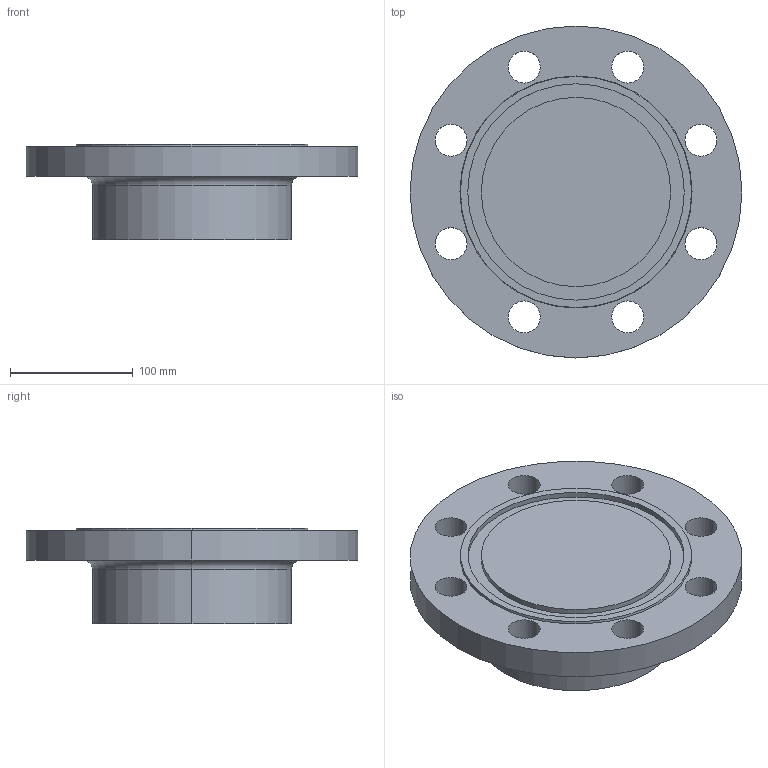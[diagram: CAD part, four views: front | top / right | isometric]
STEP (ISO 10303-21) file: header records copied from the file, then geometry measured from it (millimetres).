
FILE_DESCRIPTION (( 'STEP AP214' ), '1' );
FILE_NAME ('PN40 DN125 Type 21(i) - Type D Face.STEP', '2019-01-02T01:22:13', ( '' ), ( '' ), 'SwSTEP 2.0', 'SolidWorks 2019', '' );
FILE_SCHEMA (( 'AUTOMOTIVE_DESIGN' ));
Length unit declared in the file: millimetre
Products named in the file (1): PN40 DN125 Type 21(i) - Type D Face
Bounding box: 270 x 270 x 78 mm (x, y, z)
Volume: 2381229.7 mm3; surface area: 172460.6 mm2
Topology: 1 solids, 1 shells, 34 faces, 82 edges, 54 vertices
Faces by surface type: cylinder 24, plane 6, torus 2, cone 2
Entity records: 1092 total; most frequent: DIRECTION 208, CARTESIAN_POINT 171, ORIENTED_EDGE 164, AXIS2_PLACEMENT_3D 91, EDGE_CURVE 82, CIRCLE 56, EDGE_LOOP 54, VERTEX_POINT 54
